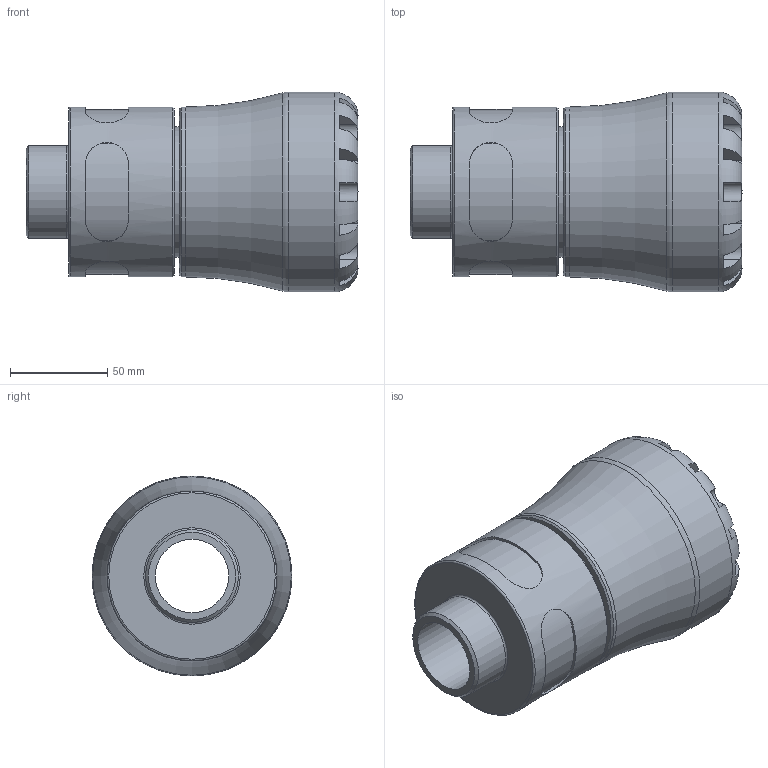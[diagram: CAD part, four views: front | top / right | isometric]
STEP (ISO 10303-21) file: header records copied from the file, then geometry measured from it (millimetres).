
FILE_DESCRIPTION(/* description */ ('PLASSON MALE ADAPTOR 63X1.1/2" SERIES 1'),/* implementation_level */ '2;1');
FILE_NAME(/* name */ 'C:\Dropbox\KIMPROJECTS-Inventor 2019\99-16-3568-Processing\S1\10N20\stp\10N200063015_10N2G0063015.stp',/* time_stamp */ '2024-03-12T13:20:08+01:00',/* author */ ('KIM'),/* organization */ (''),/* preprocessor_version */ 'ST-DEVELOPER v17.2',/* originating_system */ 'Autodesk Inventor 2019',/* authorisation */ '');
FILE_SCHEMA (('AUTOMOTIVE_DESIGN { 1 0 10303 214 3 1 1 }'));
Length unit declared in the file: millimetre
Products named in the file (1): 10N200063015_10N2G0063015
Bounding box: 171 x 103 x 103 mm (x, y, z)
Volume: 660959.5 mm3; surface area: 92442.9 mm2
Topology: 1 solids, 1 shells, 114 faces, 303 edges, 198 vertices
Faces by surface type: plane 70, cylinder 35, torus 5, cone 4
Full cylindrical faces by diameter (mm): 37.8 x1, 47.803 x1, 63 x1, 67 x1, 87.55 x2, 103 x1
Entity records: 4514 total; most frequent: CARTESIAN_POINT 1572, ORIENTED_EDGE 606, DIRECTION 592, EDGE_CURVE 303, AXIS2_PLACEMENT_3D 246, VERTEX_POINT 198, CIRCLE 131, EDGE_LOOP 123
